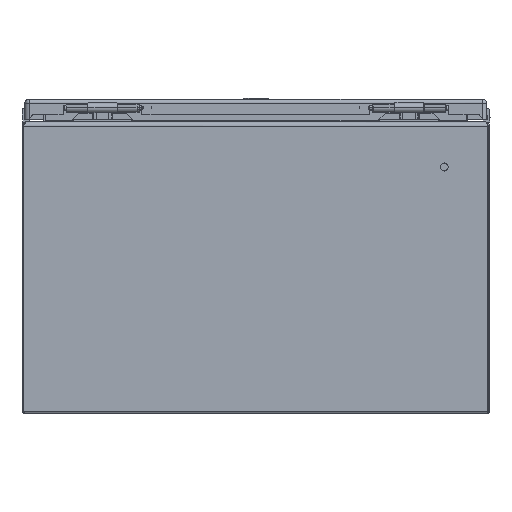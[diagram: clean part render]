
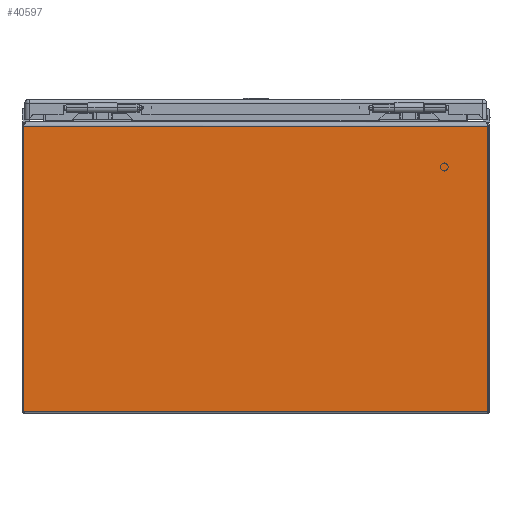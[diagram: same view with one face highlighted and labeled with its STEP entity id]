
A CAD part, left-side view. The second image highlights one B-rep face of the part: STEP entity #40597.
In plain terms, the highlighted planar face has unit normal (-1, 0, 0).
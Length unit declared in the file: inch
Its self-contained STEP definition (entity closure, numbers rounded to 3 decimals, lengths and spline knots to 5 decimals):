
#7274 = CARTESIAN_POINT ( 'NONE',  ( -10., 7.94693, 9.859 ) ) ;
#7285 = DIRECTION ( 'NONE',  ( 0., 0., -1. ) ) ;
#8213 = CARTESIAN_POINT ( 'NONE',  ( -10., -7.94693, 9.859 ) ) ;
#8214 = DIRECTION ( 'NONE',  ( 0., 0., 1. ) ) ;
#8281 = CARTESIAN_POINT ( 'NONE',  ( -10., 108., 9.859 ) ) ;
#8283 = DIRECTION ( 'NONE',  ( 0., -1., 0. ) ) ;
#8285 = CARTESIAN_POINT ( 'NONE',  ( -10., 108., 0.097 ) ) ;
#8298 = DIRECTION ( 'NONE',  ( 0., -1., 0. ) ) ;
#9936 = EDGE_LOOP ( 'NONE', ( #13979, #13930, #13911, #14007 ) ) ;
#13911 = ORIENTED_EDGE ( 'NONE', *, *, #34360, .T. ) ;
#13930 = ORIENTED_EDGE ( 'NONE', *, *, #34490, .F. ) ;
#13979 = ORIENTED_EDGE ( 'NONE', *, *, #34475, .T. ) ;
#14007 = ORIENTED_EDGE ( 'NONE', *, *, #34493, .T. ) ;
#15374 = AXIS2_PLACEMENT_3D ( 'NONE', #24121, #24127, #24128 ) ;
#24121 = CARTESIAN_POINT ( 'NONE',  ( -10., 108., 9.859 ) ) ;
#24124 = PLANE ( 'NONE',  #15374 ) ;
#24127 = DIRECTION ( 'NONE',  ( -1., 0., 0. ) ) ;
#24128 = DIRECTION ( 'NONE',  ( 0., 0., -1. ) ) ;
#28361 = CARTESIAN_POINT ( 'NONE',  ( -10., -7.94693, 0.097 ) ) ;
#28373 = CARTESIAN_POINT ( 'NONE',  ( -10., 7.94693, 0.097 ) ) ;
#28374 = CARTESIAN_POINT ( 'NONE',  ( -10., 7.94693, 9.859 ) ) ;
#28413 = CARTESIAN_POINT ( 'NONE',  ( -10., -7.94693, 9.859 ) ) ;
#34360 = EDGE_CURVE ( 'NONE', #43876, #43875, #41325, .T. ) ;
#34475 = EDGE_CURVE ( 'NONE', #43862, #43919, #41613, .T. ) ;
#34490 = EDGE_CURVE ( 'NONE', #43876, #43919, #41647, .T. ) ;
#34493 = EDGE_CURVE ( 'NONE', #43875, #43862, #41643, .T. ) ;
#38193 = FACE_OUTER_BOUND ( 'NONE', #9936, .T. ) ;
#40597 = ADVANCED_FACE ( 'NONE', ( #38193 ), #24124, .T. ) ;
#41314 = VECTOR ( 'NONE', #7285, 39.37008 ) ;
#41325 = LINE ( 'NONE', #7274, #41314 ) ;
#41613 = LINE ( 'NONE', #8213, #41623 ) ;
#41623 = VECTOR ( 'NONE', #8214, 39.37008 ) ;
#41642 = VECTOR ( 'NONE', #8283, 39.37008 ) ;
#41643 = LINE ( 'NONE', #8285, #41655 ) ;
#41647 = LINE ( 'NONE', #8281, #41642 ) ;
#41655 = VECTOR ( 'NONE', #8298, 39.37008 ) ;
#43862 = VERTEX_POINT ( 'NONE', #28361 ) ;
#43875 = VERTEX_POINT ( 'NONE', #28373 ) ;
#43876 = VERTEX_POINT ( 'NONE', #28374 ) ;
#43919 = VERTEX_POINT ( 'NONE', #28413 ) ;
